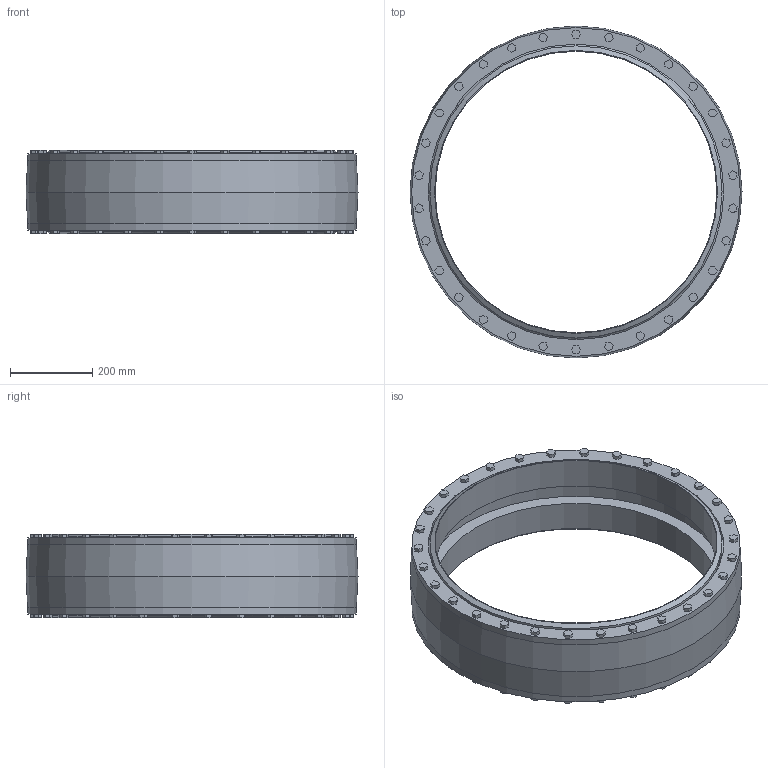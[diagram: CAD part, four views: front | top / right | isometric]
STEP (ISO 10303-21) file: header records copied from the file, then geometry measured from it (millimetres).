
FILE_DESCRIPTION(/* description */ ('VIC EXPANSION JOINT COUPLING 152-A','CAx-IF Rec.Pracs.---Representation and Presentation of Product Manufacturing Information (PMI)---4.0---2014-10-13'),/* implementation_level */ '2;1');
FILE_NAME(/* name */ 'C:\Users\kkamble\AppData\Roaming\Autodesk\ApplicationPlugins\Back Up\Victaulic_Vic-Ring_Coupling Expansion Joint_Style 152A (OGR)\Victaulic_Vic-Ring_Coupling Expansion Joint_Style 152A (OGR)_28 (700).stp',/* time_stamp */ '2020-09-10T11:34:32+05:00',/* author */ ('jheald'),/* organization */ ('Victaulic'),/* preprocessor_version */ 'ST-DEVELOPER v17.2',/* originating_system */ 'Autodesk Inventor 2019',/* authorisation */ '');
FILE_SCHEMA (('AP242_MANAGED_MODEL_BASED_3D_ENGINEERING_MIM_LF { 1 0 10303 442 1 1 4 }'));
Length unit declared in the file: inch
Products named in the file (1): 152A-28.0
Bounding box: 808.14 x 808.14 x 203.2 mm (x, y, z)
Volume: 20972229.6 mm3; surface area: 2107346.9 mm2
Topology: 1 solids, 1 shells, 457 faces, 1179 edges, 796 vertices
Faces by surface type: plane 434, cylinder 15, cone 6, torus 2
Full cylindrical faces by diameter (mm): 685.8 x2, 711.2 x2, 719.328 x2, 725.678 x2, 746.252 x4, 749.3 x1, 800.1 x2
Entity records: 14340 total; most frequent: CARTESIAN_POINT 2450, ORIENTED_EDGE 2358, DIRECTION 2199, EDGE_CURVE 1179, LINE 1101, VECTOR 1101, VERTEX_POINT 796, AXIS2_PLACEMENT_3D 549
